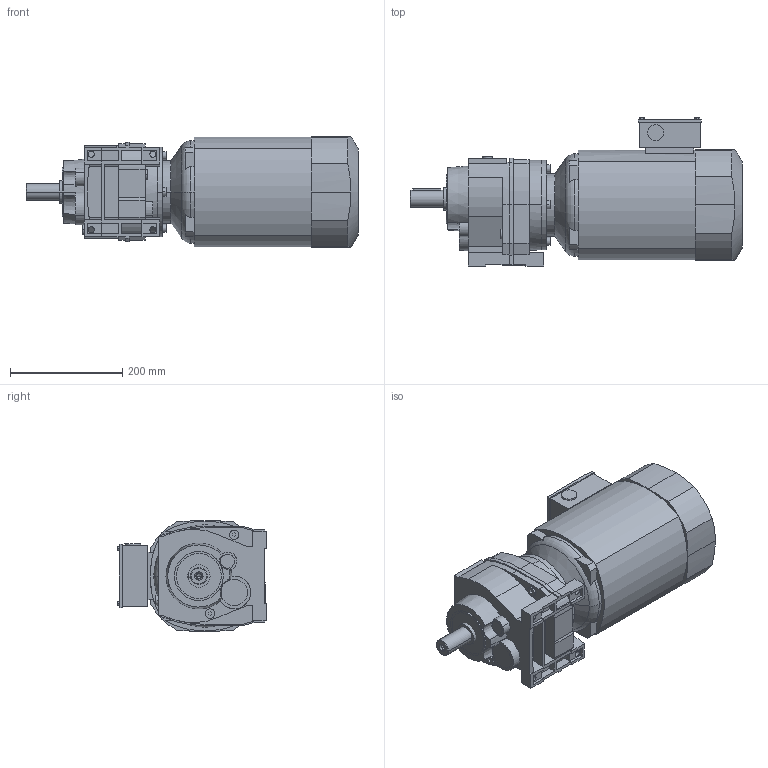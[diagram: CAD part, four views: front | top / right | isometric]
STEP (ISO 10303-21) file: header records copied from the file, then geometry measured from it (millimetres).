
FILE_DESCRIPTION(('STEP AP214'),'1');
FILE_NAME('STEP-File.stp','2018-01-01T00:00:00',(' '),('KEB'),' ','KEB-DRIVE',' ');
FILE_SCHEMA(('AUTOMOTIVE_DESIGN { 1 0 10303 214 1 1 1 1 }'));
Length unit declared in the file: millimetre
Products named in the file (8): g3a; w3_we_30x60; cp3; dm112l_kkn; kk08; PLUG_M25; ndm112; G32A DM112MB4§CAD13
Assembly tree (7 placements, depth 2):
  G32A DM112MB4§CAD13
    g3a
    w3_we_30x60
    cp3
    dm112l_kkn
    kk08
    PLUG_M25
    ndm112
Bounding box: 592.5 x 264.5 x 197.8 mm (x, y, z)
Volume: 15407657.7 mm3; surface area: 678257.1 mm2
Topology: 7 solids, 7 shells, 557 faces, 1685 edges, 1342 vertices
Faces by surface type: plane 407, cylinder 97, cone 49, torus 4
Entity records: 20887 total; most frequent: CARTESIAN_POINT 6047, ORIENTED_EDGE 3366, DIRECTION 2314, EDGE_CURVE 1683, VERTEX_POINT 1342, VECTOR 1328, LINE 1328, EDGE_LOOP 767
